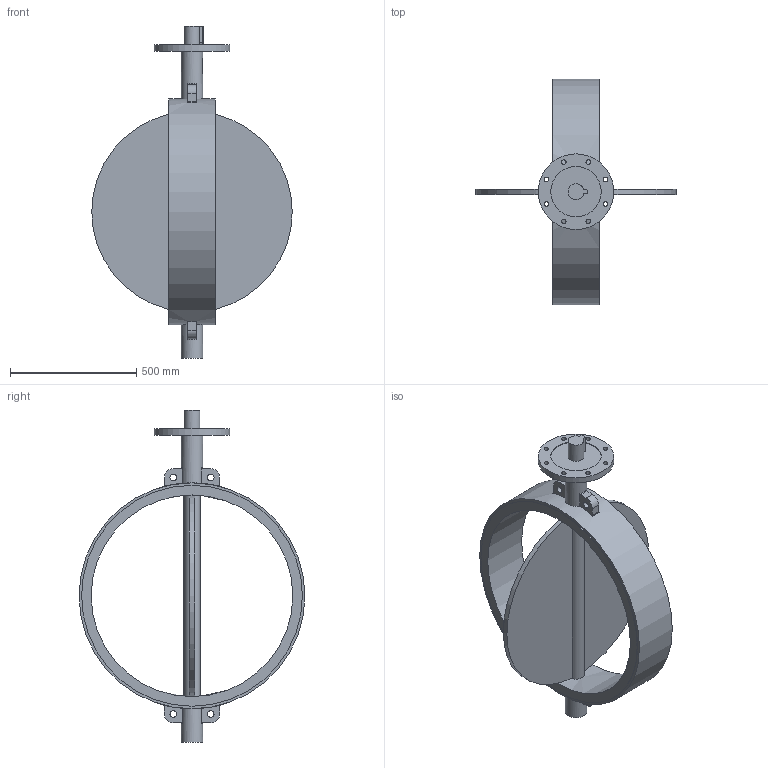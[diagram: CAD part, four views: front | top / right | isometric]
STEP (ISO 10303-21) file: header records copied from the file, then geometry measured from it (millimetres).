
FILE_DESCRIPTION(('STEP AP203'), '1');
FILE_NAME('青蜮铕 017W.YS_DN800_PN16', '', ('UNSPECIFIED'), ('UNSPECIFIED'), 'ASCON STEP Converter 1.6', 'ASCON Math Kernel', '');
FILE_SCHEMA(('CONFIG_CONTROL_DESIGN'));
Length unit declared in the file: millimetre
Bounding box: 795.4 x 896 x 1317 mm (x, y, z)
Volume: 39904683.3 mm3; surface area: 2641435.1 mm2
Topology: 1 solids, 1 shells, 93 faces, 232 edges, 154 vertices
Faces by surface type: plane 48, cylinder 41, torus 4
Full cylindrical faces by diameter (mm): 18 x8, 26.211 x4, 63.4 x1, 65 x1, 85 x2, 200 x1, 300 x1, 800 x1, 876 x2, 896 x1
Entity records: 4586 total; most frequent: CARTESIAN_POINT 1546, DIRECTION 476, ORIENTED_EDGE 420, EDGE_CURVE 210, AXIS2_PLACEMENT_3D 192, EDGE_LOOP 156, VERTEX_POINT 154, FACE_BOUND 115
